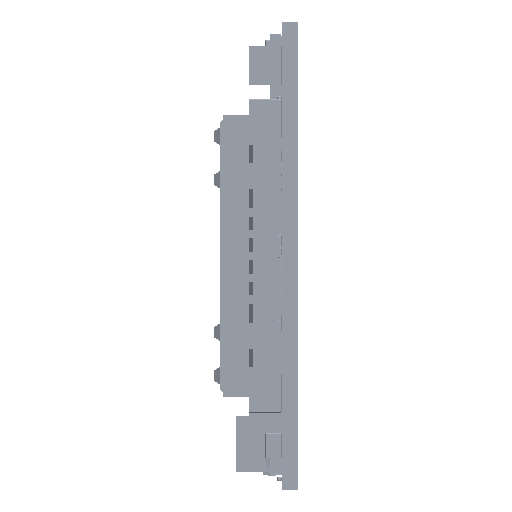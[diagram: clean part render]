
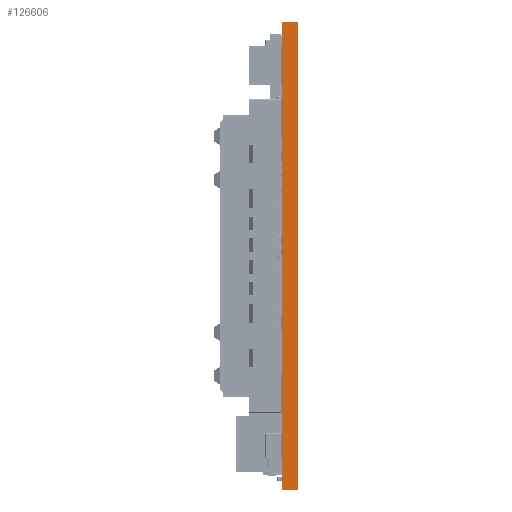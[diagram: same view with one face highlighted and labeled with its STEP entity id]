
A CAD part, left-side view. The second image highlights one B-rep face of the part: STEP entity #126606.
In plain terms, the highlighted planar face has unit normal (-1, 0, 0).
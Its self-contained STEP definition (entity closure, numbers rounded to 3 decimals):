
#217=DIRECTION('',(0.,0.,-1.));
#218=VECTOR('',#217,43.);
#219=CARTESIAN_POINT('',(0.,0.,43.));
#220=LINE('',#219,#218);
#8643=DIRECTION('',(0.,1.,0.));
#8644=VECTOR('',#8643,1.515);
#8645=CARTESIAN_POINT('',(0.,-1.515,0.));
#8646=LINE('',#8645,#8644);
#8647=DIRECTION('',(0.,1.,0.));
#8648=VECTOR('',#8647,1.515);
#8649=CARTESIAN_POINT('',(0.,-1.515,43.));
#8650=LINE('',#8649,#8648);
#8898=DIRECTION('',(0.,0.,1.));
#8899=VECTOR('',#8898,43.);
#8900=CARTESIAN_POINT('',(0.,-1.515,0.));
#8901=LINE('',#8900,#8899);
#95900=CARTESIAN_POINT('',(0.,0.,43.));
#95901=VERTEX_POINT('',#95900);
#95902=CARTESIAN_POINT('',(0.,0.,0.));
#95903=VERTEX_POINT('',#95902);
#96248=CARTESIAN_POINT('',(0.,-1.515,0.));
#96249=VERTEX_POINT('',#96248);
#96250=CARTESIAN_POINT('',(0.,-1.515,43.));
#96251=VERTEX_POINT('',#96250);
#126593=CARTESIAN_POINT('',(0.,-1.515,0.));
#126594=DIRECTION('',(1.,0.,0.));
#126595=DIRECTION('',(0.,0.,1.));
#126596=AXIS2_PLACEMENT_3D('',#126593,#126594,#126595);
#126597=PLANE('',#126596);
#126598=ORIENTED_EDGE('',*,*,#126579,.T.);
#126599=ORIENTED_EDGE('',*,*,#119957,.F.);
#126601=ORIENTED_EDGE('',*,*,#126600,.F.);
#126603=ORIENTED_EDGE('',*,*,#126602,.F.);
#126604=EDGE_LOOP('',(#126598,#126599,#126601,#126603));
#126605=FACE_OUTER_BOUND('',#126604,.F.);
#126606=ADVANCED_FACE('',(#126605),#126597,.F.);
#119957=EDGE_CURVE('',#95901,#95903,#220,.T.);
#126579=EDGE_CURVE('',#96249,#95903,#8646,.T.);
#126600=EDGE_CURVE('',#96251,#95901,#8650,.T.);
#126602=EDGE_CURVE('',#96249,#96251,#8901,.T.);
